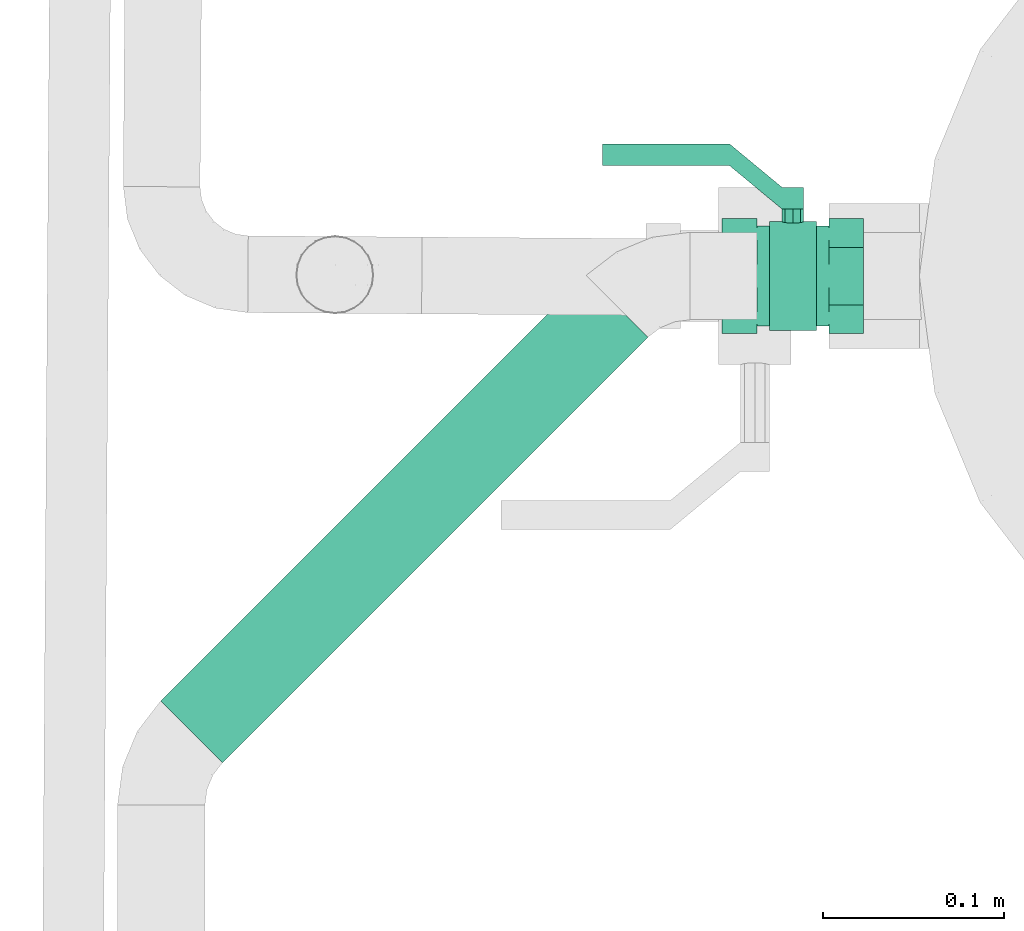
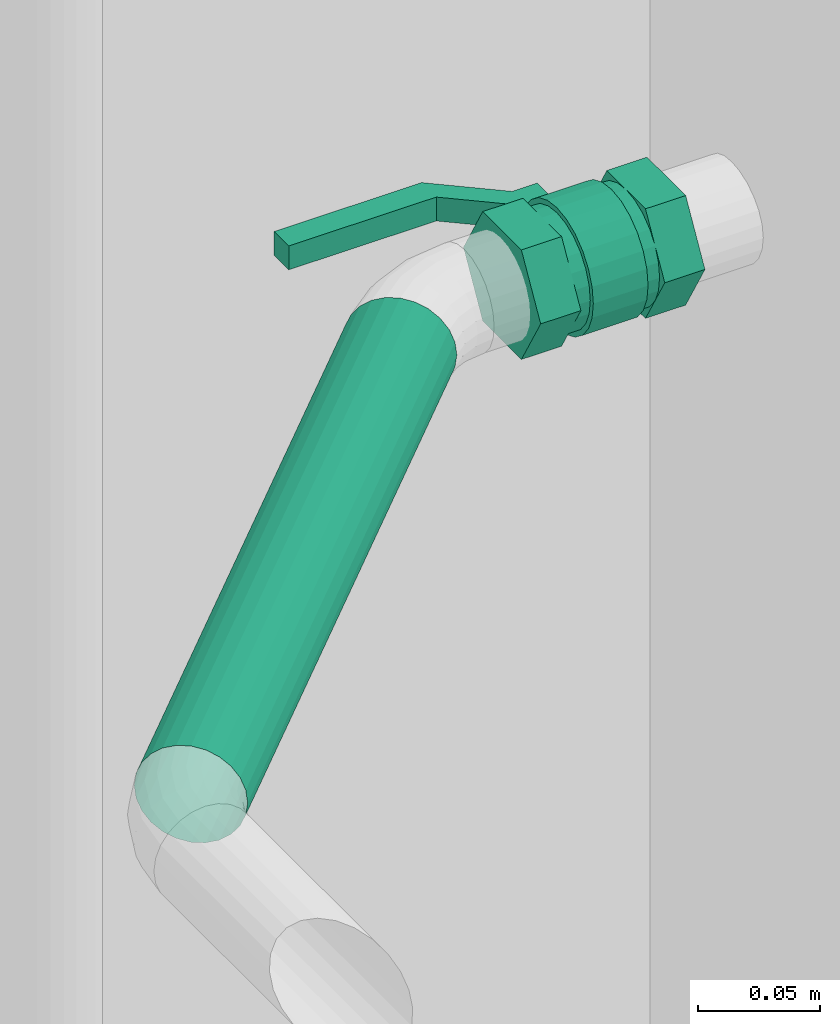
# One storey, part 278 of 374: 1 flow controller, 1 flow segment.
"""IFC2X3 building model written with IfcOpenShell, lengths in metres."""

from ifc_helpers import new_model, si_unit, direction, origin, place, context, subcontext, project, spatial, open_shell, surface_model, source, transform, mapped, element, save


model = new_model("IFC2X3")

# Units and contexts
model_context = context("Model", 3, precision=1e-05, world=origin(), true_north=direction((-0.4480736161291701, 0.8939966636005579)))
body_context = subcontext(model_context, "Body", "Model", "MODEL_VIEW")
ifc_project = project(units=[si_unit("LENGTHUNIT", "METRE"), si_unit("AREAUNIT", "SQUARE_METRE"), si_unit("VOLUMEUNIT", "CUBIC_METRE"), si_unit("PLANEANGLEUNIT", "RADIAN"), si_unit("THERMODYNAMICTEMPERATUREUNIT", "KELVIN"), si_unit("MASSUNIT", "GRAM", prefix="KILO"), si_unit("TIMEUNIT", "SECOND")], contexts=[model_context])

# Site, building, storey
site_placement = place(None, origin())
site = spatial("IfcSite", under=ifc_project, at=site_placement, Name="Site 1", CompositionType="ELEMENT")
building_placement = place(site_placement, origin())
building = spatial("IfcBuilding", under=site, at=building_placement, Name="Undefined", CompositionType="ELEMENT")
storey_placement = place(building_placement, origin())
storey = spatial("IfcBuildingStorey", under=building, at=storey_placement, Name="Rez de chauss\x8ee", CompositionType="ELEMENT", Elevation=0.0)

# Flow controller
shared_shape_1 = source(origin(), body_context, "Body", "SurfaceModel", [
    surface_model("IfcFaceBasedSurfaceModel", [(0.0, 0.0, 0.0), (0.012000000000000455, 0.0, 0.0), (0.012000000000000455, 0.01200000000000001, 0.0), (0.0, 0.01200000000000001, 0.0), (0.012000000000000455, 0.0, -0.011999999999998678), (0.012000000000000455, 0.01200000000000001, -0.011999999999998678), (0.0, 0.0, -0.011999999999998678), (0.0, 0.01200000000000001, -0.011999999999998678), (-0.028999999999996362, 0.0, -0.03599999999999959), (-0.028999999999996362, 0.01200000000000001, -0.03599999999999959), (-0.09899999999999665, 0.0, -0.03599999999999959), (-0.09899999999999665, 0.01200000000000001, -0.03599999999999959), (-0.09899999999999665, 0.0, -0.023999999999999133), (-0.09899999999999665, 0.01200000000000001, -0.023999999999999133), (-0.028999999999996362, 0.0, -0.023999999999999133), (-0.028999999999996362, 0.01200000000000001, -0.023999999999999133), (0.045000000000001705, 0.03349999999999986, 0.0528771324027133), (0.045000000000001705, 0.03349999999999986, 0.021122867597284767), (0.02590000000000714, 0.03349999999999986, 0.021122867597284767), (0.02590000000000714, 0.03349999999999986, 0.0528771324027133), (0.045000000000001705, 0.006000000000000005, 0.06875426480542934), (0.02590000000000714, 0.006000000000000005, 0.06875426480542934), (0.045000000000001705, -0.021500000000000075, 0.0528771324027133), (0.02590000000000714, -0.021500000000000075, 0.0528771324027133), (0.045000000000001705, -0.021500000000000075, 0.021122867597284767), (0.02590000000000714, -0.021500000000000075, 0.021122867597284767), (0.045000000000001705, 0.006000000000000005, 0.005245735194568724), (0.02590000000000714, 0.006000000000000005, 0.005245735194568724), (0.02590000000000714, -0.021500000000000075, 0.036999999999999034), (0.02590000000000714, -0.020562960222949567, 0.044117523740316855), (0.019000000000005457, -0.020562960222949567, 0.044117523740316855), (0.019000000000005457, -0.021500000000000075, 0.036999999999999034), (0.02590000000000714, -0.017815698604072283, 0.05074999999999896), (0.019000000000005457, -0.017815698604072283, 0.05074999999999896), (0.02590000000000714, -0.01344543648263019, 0.056445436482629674), (0.019000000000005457, -0.01344543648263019, 0.056445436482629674), (0.02590000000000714, -0.007750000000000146, 0.060815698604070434), (0.019000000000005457, -0.007750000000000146, 0.060815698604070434), (0.02590000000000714, -0.0011175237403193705, 0.0635629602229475), (0.019000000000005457, -0.0011175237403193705, 0.0635629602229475), (0.02590000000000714, 0.006000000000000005, 0.06449999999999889), (0.019000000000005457, 0.006000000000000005, 0.06449999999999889), (0.02590000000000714, 0.013117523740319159, 0.0635629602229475), (0.019000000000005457, 0.013117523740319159, 0.0635629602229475), (0.02590000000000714, 0.019749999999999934, 0.060815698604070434), (0.019000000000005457, 0.019749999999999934, 0.060815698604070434), (0.02590000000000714, 0.02544543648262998, 0.056445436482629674), (0.019000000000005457, 0.02544543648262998, 0.056445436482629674), (0.02590000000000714, 0.02981569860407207, 0.05074999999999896), (0.019000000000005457, 0.02981569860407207, 0.05074999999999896), (0.02590000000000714, 0.032562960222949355, 0.044117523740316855), (0.019000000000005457, 0.032562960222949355, 0.044117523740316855), (0.02590000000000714, 0.03349999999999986, 0.036999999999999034), (0.019000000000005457, 0.03349999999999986, 0.036999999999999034), (0.02590000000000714, 0.032562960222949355, 0.029882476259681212), (0.019000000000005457, 0.032562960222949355, 0.029882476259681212), (0.02590000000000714, 0.02981569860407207, 0.023249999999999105), (0.019000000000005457, 0.02981569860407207, 0.023249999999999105), (0.02590000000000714, 0.02544543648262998, 0.017554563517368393), (0.019000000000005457, 0.02544543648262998, 0.017554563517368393), (0.02590000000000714, 0.019749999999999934, 0.013184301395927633), (0.019000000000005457, 0.019749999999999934, 0.013184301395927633), (0.02590000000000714, 0.013117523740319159, 0.010437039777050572), (0.019000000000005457, 0.013117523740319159, 0.010437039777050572), (0.02590000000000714, 0.006000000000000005, 0.009499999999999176), (0.019000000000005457, 0.006000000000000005, 0.009499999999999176), (0.02590000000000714, -0.0011175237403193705, 0.010437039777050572), (0.019000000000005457, -0.0011175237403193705, 0.010437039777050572), (0.02590000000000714, -0.007750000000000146, 0.013184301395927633), (0.019000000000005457, -0.007750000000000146, 0.013184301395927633), (0.02590000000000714, -0.01344543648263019, 0.017554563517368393), (0.019000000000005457, -0.01344543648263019, 0.017554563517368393), (0.02590000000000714, -0.017815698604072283, 0.023249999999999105), (0.019000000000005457, -0.017815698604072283, 0.023249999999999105), (0.02590000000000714, -0.020562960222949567, 0.029882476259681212), (0.019000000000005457, -0.020562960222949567, 0.029882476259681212), (0.019000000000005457, -0.023999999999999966, 0.036999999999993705), (0.019000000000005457, -0.022977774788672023, 0.04476457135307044), (-0.006999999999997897, -0.022977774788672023, 0.04476457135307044), (-0.006999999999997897, -0.023999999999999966, 0.036999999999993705), (0.019000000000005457, -0.019980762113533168, 0.05199999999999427), (-0.006999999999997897, -0.019980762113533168, 0.05199999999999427), (0.019000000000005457, -0.0152132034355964, 0.058213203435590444), (-0.006999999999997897, -0.0152132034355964, 0.058213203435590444), (0.019000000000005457, -0.009000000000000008, 0.06298076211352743), (-0.006999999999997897, -0.009000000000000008, 0.06298076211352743), (0.019000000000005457, -0.0017645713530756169, 0.0659777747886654), (-0.006999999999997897, -0.0017645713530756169, 0.0659777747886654), (0.019000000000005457, 0.006000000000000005, 0.06699999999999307), (-0.006999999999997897, 0.006000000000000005, 0.06699999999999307), (0.019000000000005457, 0.013764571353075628, 0.0659777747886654), (-0.006999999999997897, 0.013764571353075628, 0.0659777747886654), (0.019000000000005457, 0.02100000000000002, 0.06298076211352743), (-0.006999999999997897, 0.02100000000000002, 0.06298076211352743), (0.019000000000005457, 0.027213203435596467, 0.058213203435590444), (-0.006999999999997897, 0.027213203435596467, 0.058213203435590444), (0.019000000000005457, 0.03198076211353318, 0.05199999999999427), (-0.006999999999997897, 0.03198076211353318, 0.05199999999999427), (0.019000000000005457, 0.034977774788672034, 0.04476457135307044), (-0.006999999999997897, 0.034977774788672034, 0.04476457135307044), (0.019000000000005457, 0.03600000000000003, 0.036999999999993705), (-0.006999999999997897, 0.03600000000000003, 0.036999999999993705), (0.019000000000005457, 0.034977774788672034, 0.029235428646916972), (-0.006999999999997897, 0.034977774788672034, 0.029235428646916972), (0.019000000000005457, 0.03198076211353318, 0.021999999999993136), (-0.006999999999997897, 0.03198076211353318, 0.021999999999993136), (0.019000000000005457, 0.027213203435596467, 0.015786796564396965), (-0.006999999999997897, 0.027213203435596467, 0.015786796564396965), (0.019000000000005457, 0.02100000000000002, 0.011019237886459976), (-0.006999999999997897, 0.02100000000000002, 0.011019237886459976), (0.019000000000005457, 0.013764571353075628, 0.008022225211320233), (-0.006999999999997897, 0.013764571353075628, 0.008022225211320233), (0.019000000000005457, 0.006000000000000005, 0.006999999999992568), (-0.006999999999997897, 0.006000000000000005, 0.006999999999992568), (0.019000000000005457, -0.0017645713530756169, 0.008022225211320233), (-0.006999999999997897, -0.0017645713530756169, 0.008022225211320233), (0.019000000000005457, -0.009000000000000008, 0.011019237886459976), (-0.006999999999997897, -0.009000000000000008, 0.011019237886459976), (0.019000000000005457, -0.0152132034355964, 0.015786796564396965), (-0.006999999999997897, -0.0152132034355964, 0.015786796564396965), (0.019000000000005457, -0.019980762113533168, 0.021999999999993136), (-0.006999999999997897, -0.019980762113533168, 0.021999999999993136), (0.019000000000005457, -0.022977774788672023, 0.029235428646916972), (-0.006999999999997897, -0.022977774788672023, 0.029235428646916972), (0.019000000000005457, 0.006000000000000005, 0.036999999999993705), (-0.006999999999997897, 0.006000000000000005, 0.036999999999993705), (-0.006999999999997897, -0.021500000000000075, 0.036999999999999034), (-0.006999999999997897, -0.020562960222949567, 0.044117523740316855), (-0.01389999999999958, -0.020562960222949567, 0.044117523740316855), (-0.01389999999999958, -0.021500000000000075, 0.036999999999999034), (-0.006999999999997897, -0.017815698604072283, 0.05074999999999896), (-0.01389999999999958, -0.017815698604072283, 0.05074999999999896), (-0.006999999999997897, -0.01344543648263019, 0.056445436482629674), (-0.01389999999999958, -0.01344543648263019, 0.056445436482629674), (-0.006999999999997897, -0.007750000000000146, 0.060815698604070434), (-0.01389999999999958, -0.007750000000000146, 0.060815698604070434), (-0.006999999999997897, -0.0011175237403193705, 0.0635629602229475), (-0.01389999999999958, -0.0011175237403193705, 0.0635629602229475), (-0.006999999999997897, 0.006000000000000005, 0.06449999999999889), (-0.01389999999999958, 0.006000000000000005, 0.06449999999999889), (-0.006999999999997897, 0.013117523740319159, 0.0635629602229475), (-0.01389999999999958, 0.013117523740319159, 0.0635629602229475), (-0.006999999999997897, 0.019749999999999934, 0.060815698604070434), (-0.01389999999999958, 0.019749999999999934, 0.060815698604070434), (-0.006999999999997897, 0.02544543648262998, 0.056445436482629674), (-0.01389999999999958, 0.02544543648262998, 0.056445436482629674), (-0.006999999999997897, 0.02981569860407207, 0.05074999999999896), (-0.01389999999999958, 0.02981569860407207, 0.05074999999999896), (-0.006999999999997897, 0.032562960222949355, 0.044117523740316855), (-0.01389999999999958, 0.032562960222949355, 0.044117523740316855), (-0.006999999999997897, 0.03349999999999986, 0.036999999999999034), (-0.01389999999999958, 0.03349999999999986, 0.036999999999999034), (-0.006999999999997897, 0.032562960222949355, 0.029882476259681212), (-0.01389999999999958, 0.032562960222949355, 0.029882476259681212), (-0.006999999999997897, 0.02981569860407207, 0.023249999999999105), (-0.01389999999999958, 0.02981569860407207, 0.023249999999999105), (-0.006999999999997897, 0.02544543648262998, 0.017554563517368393), (-0.01389999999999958, 0.02544543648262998, 0.017554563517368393), (-0.006999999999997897, 0.019749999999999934, 0.013184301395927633), (-0.01389999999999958, 0.019749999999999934, 0.013184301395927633), (-0.006999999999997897, 0.013117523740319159, 0.010437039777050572), (-0.01389999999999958, 0.013117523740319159, 0.010437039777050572), (-0.006999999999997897, 0.006000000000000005, 0.009499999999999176), (-0.01389999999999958, 0.006000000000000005, 0.009499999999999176), (-0.006999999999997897, -0.0011175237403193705, 0.010437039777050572), (-0.01389999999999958, -0.0011175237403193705, 0.010437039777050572), (-0.006999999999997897, -0.007750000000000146, 0.013184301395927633), (-0.01389999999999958, -0.007750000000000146, 0.013184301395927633), (-0.006999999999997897, -0.01344543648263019, 0.017554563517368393), (-0.01389999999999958, -0.01344543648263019, 0.017554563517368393), (-0.006999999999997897, -0.017815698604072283, 0.023249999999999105), (-0.01389999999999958, -0.017815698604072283, 0.023249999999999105), (-0.006999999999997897, -0.020562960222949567, 0.029882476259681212), (-0.01389999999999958, -0.020562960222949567, 0.029882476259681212), (-0.01389999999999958, 0.03349999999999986, 0.0528771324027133), (-0.01389999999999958, 0.03349999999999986, 0.021122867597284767), (-0.032999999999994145, 0.03349999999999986, 0.021122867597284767), (-0.032999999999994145, 0.03349999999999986, 0.0528771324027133), (-0.01389999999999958, 0.006000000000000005, 0.06875426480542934), (-0.032999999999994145, 0.006000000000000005, 0.06875426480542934), (-0.01389999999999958, -0.021500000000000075, 0.0528771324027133), (-0.032999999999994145, -0.021500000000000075, 0.0528771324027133), (-0.01389999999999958, -0.021500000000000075, 0.021122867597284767), (-0.032999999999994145, -0.021500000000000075, 0.021122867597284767), (-0.01389999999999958, 0.006000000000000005, 0.005245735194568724), (-0.032999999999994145, 0.006000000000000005, 0.005245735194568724), (0.0, 0.006000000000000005, 0.03700000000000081), (0.0017573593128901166, 0.010242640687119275, 0.03700000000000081), (0.0017573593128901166, 0.010242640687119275, 0.0), (0.0, 0.006000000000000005, 0.0), (0.006000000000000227, 0.01200000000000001, 0.03700000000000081), (0.006000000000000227, 0.01200000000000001, 0.0), (0.010242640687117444, 0.010242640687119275, 0.03700000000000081), (0.010242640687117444, 0.010242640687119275, 0.0), (0.012000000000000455, 0.006000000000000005, 0.03700000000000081), (0.012000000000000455, 0.006000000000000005, 0.0), (0.010242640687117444, 0.0017573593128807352, 0.03700000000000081), (0.010242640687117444, 0.0017573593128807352, 0.0), (0.006000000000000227, 0.0, 0.03700000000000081), (0.006000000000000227, 0.0, 0.0), (0.0017573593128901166, 0.0017573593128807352, 0.03700000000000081), (0.0017573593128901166, 0.0017573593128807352, 0.0)], [open_shell([[[0, 1, 2, 3]], [[1, 4, 5, 2]], [[4, 6, 7, 5]], [[6, 8, 9, 7]], [[8, 10, 11, 9]], [[10, 12, 13, 11]], [[12, 14, 15, 13]], [[14, 0, 3, 15]], [[2, 7, 3]], [[9, 3, 7]], [[3, 9, 15]], [[11, 15, 9]], [[15, 11, 13]], [[7, 2, 5]], [[0, 6, 1]], [[6, 0, 8]], [[14, 8, 0]], [[8, 14, 10]], [[12, 10, 14]], [[4, 1, 6]], [[16, 17, 18, 19]], [[20, 16, 19, 21]], [[22, 20, 21, 23]], [[24, 22, 23, 25]], [[26, 24, 25, 27]], [[17, 26, 27, 18]], [[17, 16, 20]], [[17, 20, 22]], [[17, 22, 24]], [[17, 24, 26]], [[18, 21, 19]], [[18, 23, 21]], [[18, 25, 23]], [[18, 27, 25]], [[28, 29, 30, 31]], [[29, 32, 33, 30]], [[32, 34, 35, 33]], [[34, 36, 37, 35]], [[36, 38, 39, 37]], [[38, 40, 41, 39]], [[40, 42, 43, 41]], [[42, 44, 45, 43]], [[44, 46, 47, 45]], [[46, 48, 49, 47]], [[48, 50, 51, 49]], [[50, 52, 53, 51]], [[52, 54, 55, 53]], [[54, 56, 57, 55]], [[56, 58, 59, 57]], [[58, 60, 61, 59]], [[60, 62, 63, 61]], [[62, 64, 65, 63]], [[64, 66, 67, 65]], [[66, 68, 69, 67]], [[68, 70, 71, 69]], [[70, 72, 73, 71]], [[72, 74, 75, 73]], [[74, 28, 31, 75]], [[76, 77, 78, 79]], [[77, 80, 81, 78]], [[80, 82, 83, 81]], [[82, 84, 85, 83]], [[84, 86, 87, 85]], [[86, 88, 89, 87]], [[88, 90, 91, 89]], [[90, 92, 93, 91]], [[92, 94, 95, 93]], [[94, 96, 97, 95]], [[96, 98, 99, 97]], [[98, 100, 101, 99]], [[100, 102, 103, 101]], [[102, 104, 105, 103]], [[104, 106, 107, 105]], [[106, 108, 109, 107]], [[108, 110, 111, 109]], [[110, 112, 113, 111]], [[112, 114, 115, 113]], [[114, 116, 117, 115]], [[116, 118, 119, 117]], [[118, 120, 121, 119]], [[120, 122, 123, 121]], [[122, 76, 79, 123]], [[124, 77, 76]], [[124, 80, 77]], [[124, 82, 80]], [[124, 84, 82]], [[124, 86, 84]], [[124, 88, 86]], [[124, 90, 88]], [[124, 92, 90]], [[124, 94, 92]], [[124, 96, 94]], [[124, 98, 96]], [[124, 100, 98]], [[124, 102, 100]], [[124, 104, 102]], [[124, 106, 104]], [[124, 108, 106]], [[124, 110, 108]], [[124, 112, 110]], [[124, 114, 112]], [[124, 116, 114]], [[124, 118, 116]], [[124, 120, 118]], [[124, 122, 120]], [[124, 76, 122]], [[125, 123, 79]], [[125, 121, 123]], [[125, 119, 121]], [[125, 117, 119]], [[125, 115, 117]], [[125, 113, 115]], [[125, 111, 113]], [[125, 109, 111]], [[125, 107, 109]], [[125, 105, 107]], [[125, 103, 105]], [[125, 101, 103]], [[125, 99, 101]], [[125, 97, 99]], [[125, 95, 97]], [[125, 93, 95]], [[125, 91, 93]], [[125, 89, 91]], [[125, 87, 89]], [[125, 85, 87]], [[125, 83, 85]], [[125, 81, 83]], [[125, 78, 81]], [[125, 79, 78]], [[126, 127, 128, 129]], [[127, 130, 131, 128]], [[130, 132, 133, 131]], [[132, 134, 135, 133]], [[134, 136, 137, 135]], [[136, 138, 139, 137]], [[138, 140, 141, 139]], [[140, 142, 143, 141]], [[142, 144, 145, 143]], [[144, 146, 147, 145]], [[146, 148, 149, 147]], [[148, 150, 151, 149]], [[150, 152, 153, 151]], [[152, 154, 155, 153]], [[154, 156, 157, 155]], [[156, 158, 159, 157]], [[158, 160, 161, 159]], [[160, 162, 163, 161]], [[162, 164, 165, 163]], [[164, 166, 167, 165]], [[166, 168, 169, 167]], [[168, 170, 171, 169]], [[170, 172, 173, 171]], [[172, 126, 129, 173]], [[174, 175, 176, 177]], [[178, 174, 177, 179]], [[180, 178, 179, 181]], [[182, 180, 181, 183]], [[184, 182, 183, 185]], [[175, 184, 185, 176]], [[175, 174, 178]], [[175, 178, 180]], [[175, 180, 182]], [[175, 182, 184]], [[176, 179, 177]], [[176, 181, 179]], [[176, 183, 181]], [[176, 185, 183]], [[186, 187, 188, 189]], [[187, 190, 191, 188]], [[190, 192, 193, 191]], [[192, 194, 195, 193]], [[194, 196, 197, 195]], [[196, 198, 199, 197]], [[198, 200, 201, 199]], [[200, 186, 189, 201]]])]),
])
flow_controller_placement = place(storey_placement, origin())
element("IfcFlowController", 1, at=flow_controller_placement, inside=storey, Name="Robinet à boisseau sphér. DN 32", ObjectType="Robinet à boisseau sphér. DN 32", context=body_context, shape_type="MappedRepresentation", body=[
    mapped(shared_shape_1, transform((53.31003762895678, 11.745084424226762, 1.3681500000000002), x_axis=(1.0, 0.0, 0.0), y_axis=(0.0, 0.0, 1.0), z_axis=(0.0, -1.0, 0.0))),
])

# Flow segment
shared_shape_2 = source(origin(), body_context, "Body", "SurfaceModel", [
    surface_model("IfcFaceBasedSurfaceModel", [(0.0, 0.006304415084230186, 7.105427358e-15), (0.0, 0.0, 0.0), (0.3323532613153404, -3.552713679e-15, 8.8817842e-16), (0.3323532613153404, 0.006304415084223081, -4.4408921e-16), (0.0, -0.006089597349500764, -0.0016317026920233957), (0.3323532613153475, -0.006089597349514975, -0.001631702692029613), (0.0, -0.011549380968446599, -0.004783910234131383), (0.3323532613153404, -0.011549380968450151, -0.004783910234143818), (0.0, -0.016007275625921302, -0.009241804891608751), (0.3323532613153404, -0.016007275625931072, -0.009241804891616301), (0.0, -0.01915948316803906, -0.014701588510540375), (0.3323532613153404, -0.019159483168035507, -0.01470158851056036), (0.0, -0.020791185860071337, -0.020791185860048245), (0.3323532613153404, -0.020791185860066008, -0.020791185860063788), (0.0, -0.020791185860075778, -0.027095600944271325), (0.3323532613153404, -0.020791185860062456, -0.027095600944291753), (0.0, -0.01915948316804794, -0.03318519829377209), (0.3323532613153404, -0.019159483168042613, -0.033185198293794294), (0.0, -0.01600727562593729, -0.038644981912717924), (0.3323532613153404, -0.016007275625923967, -0.03864498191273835), (0.0, -0.011549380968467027, -0.0431028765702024), (0.3323532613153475, -0.011549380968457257, -0.04310287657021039), (0.0, -0.006089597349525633, -0.04625508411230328), (0.3323532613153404, -0.006089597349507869, -0.046255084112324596), (0.0, -2.4868995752e-14, -0.04788678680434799), (0.3323532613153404, -3.552713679e-15, -0.047886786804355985), (0.0, 0.006304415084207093, -0.047886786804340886), (0.3323532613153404, 0.006304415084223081, -0.04788678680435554), (0.0, 0.012394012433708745, -0.046255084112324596), (0.3323532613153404, 0.01239401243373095, -0.046255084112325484), (0.0, 0.01785379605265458, -0.0431028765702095), (0.3323532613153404, 0.017853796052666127, -0.04310287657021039), (0.0, 0.022311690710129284, -0.03864498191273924), (0.33235326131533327, 0.022311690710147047, -0.03864498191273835), (0.0, 0.02546389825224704, -0.03318519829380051), (0.3323532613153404, 0.025463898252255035, -0.033185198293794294), (0.0, 0.02709560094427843, -0.027095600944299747), (0.3323532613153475, 0.027095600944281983, -0.02709560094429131), (0.0, 0.02709560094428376, -0.02079118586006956), (0.3323532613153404, 0.027095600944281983, -0.0207911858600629), (0.0, 0.025463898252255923, -0.014701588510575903), (0.33235326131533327, 0.025463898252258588, -0.01470158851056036), (0.0, 0.02231169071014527, -0.009241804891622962), (0.3323532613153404, 0.022311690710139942, -0.009241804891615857), (0.0, 0.01785379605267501, -0.004783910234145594), (0.3323532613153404, 0.017853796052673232, -0.004783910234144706), (0.0, 0.012394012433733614, -0.0016317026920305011), (0.3323532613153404, 0.012394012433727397, -0.0016317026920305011)], [open_shell([[[0, 1, 2, 3]], [[1, 4, 5, 2]], [[4, 6, 7, 5]], [[6, 8, 9, 7]], [[8, 10, 11, 9]], [[10, 12, 13, 11]], [[12, 14, 15, 13]], [[14, 16, 17, 15]], [[16, 18, 19, 17]], [[18, 20, 21, 19]], [[20, 22, 23, 21]], [[22, 24, 25, 23]], [[24, 26, 27, 25]], [[26, 28, 29, 27]], [[28, 30, 31, 29]], [[30, 32, 33, 31]], [[32, 34, 35, 33]], [[34, 36, 37, 35]], [[36, 38, 39, 37]], [[38, 40, 41, 39]], [[40, 42, 43, 41]], [[42, 44, 45, 43]], [[44, 46, 47, 45]], [[46, 0, 3, 47]]])]),
])
flow_segment_placement = place(storey_placement, origin())
element("IfcFlowSegment", 2, at=flow_segment_placement, inside=storey, Name="Tube acier d'après DIN 2448", ObjectType="Tube acier d'après DIN 2448", context=body_context, shape_type="MappedRepresentation", body=[
    mapped(shared_shape_2, transform((53.21461278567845, 11.695809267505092, 1.3974771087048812), x_axis=(-0.7071067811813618, -0.7071067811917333, 1.4287841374e-14), y_axis=(0.7010573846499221, -0.7010573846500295, 0.13052619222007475), z_axis=(-0.09229595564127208, 0.09229595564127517, 0.9914448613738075))),
])

save(model, "model.ifc")
